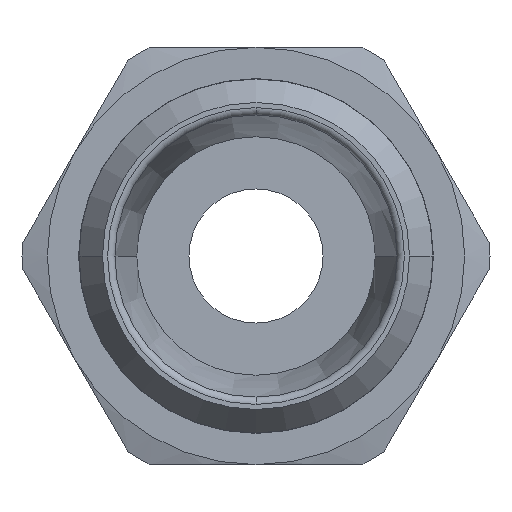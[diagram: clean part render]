
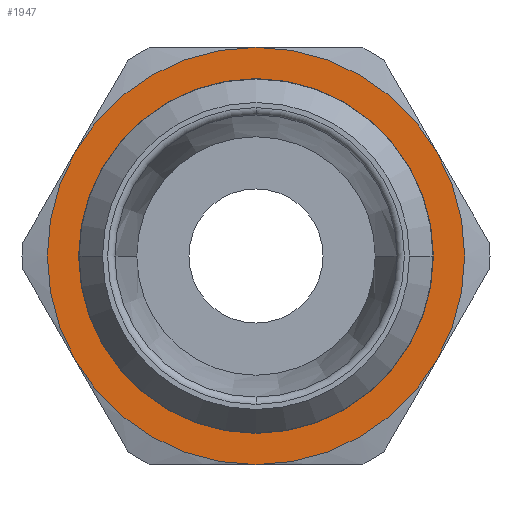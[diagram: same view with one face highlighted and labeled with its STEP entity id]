
A CAD part, left-side view. The second image highlights one B-rep face of the part: STEP entity #1947.
In plain terms, the highlighted planar face has unit normal (-1, 0, 0) as drawn and (0, 0, 1) by its records, which use the part's own axes.
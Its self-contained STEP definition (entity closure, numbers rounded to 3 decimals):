
#857=CARTESIAN_POINT('',(-5.95,0.,2.0));
#858=VERTEX_POINT('',#857);
#884=CARTESIAN_POINT('',(5.95,0.,2.0));
#885=VERTEX_POINT('',#884);
#893=CARTESIAN_POINT('',(0.,0.,2.0));
#894=DIRECTION('',(0.0,0.0,1.0));
#895=DIRECTION('',(-1.0,0.0,0.0));
#896=AXIS2_PLACEMENT_3D('',#893,#894,#895);
#897=CIRCLE('',#896,5.95);
#898=EDGE_CURVE('',#885,#858,#897,.T.);
#1827=CARTESIAN_POINT('',(0.,-5.95,2.));
#1828=VERTEX_POINT('',#1827);
#1829=CARTESIAN_POINT('',(0.,0.,2.0));
#1830=DIRECTION('',(0.0,0.0,1.0));
#1831=DIRECTION('',(-1.0,0.0,0.0));
#1832=AXIS2_PLACEMENT_3D('',#1829,#1830,#1831);
#1833=CIRCLE('',#1832,5.95);
#1834=EDGE_CURVE('',#858,#1828,#1833,.T.);
#1836=CARTESIAN_POINT('',(0.,0.,2.0));
#1837=DIRECTION('',(0.0,0.0,1.0));
#1838=DIRECTION('',(-1.0,0.0,0.0));
#1839=AXIS2_PLACEMENT_3D('',#1836,#1837,#1838);
#1840=CIRCLE('',#1839,5.95);
#1841=EDGE_CURVE('',#1828,#885,#1840,.T.);
#1881=CARTESIAN_POINT('',(0.0,0.,2.0));
#1882=DIRECTION('',(0.0,0.0,1.0));
#1883=DIRECTION('',(1.0,0.0,0.0));
#1884=AXIS2_PLACEMENT_3D('',#1881,#1882,#1883);
#1885=PLANE('',#1884);
#1886=CARTESIAN_POINT('',(3.5,-6.062,2.));
#1887=VERTEX_POINT('',#1886);
#1888=CARTESIAN_POINT('',(7.,0.0,2.));
#1889=VERTEX_POINT('',#1888);
#1890=CARTESIAN_POINT('',(0.,0.0,2.0));
#1891=DIRECTION('',(0.0,0.0,1.0));
#1892=DIRECTION('',(1.0,0.0,0.0));
#1893=AXIS2_PLACEMENT_3D('',#1890,#1891,#1892);
#1894=CIRCLE('',#1893,7.);
#1895=EDGE_CURVE('',#1887,#1889,#1894,.T.);
#1896=ORIENTED_EDGE('',*,*,#1895,.T.);
#1897=CARTESIAN_POINT('',(3.5,6.062,2.));
#1898=VERTEX_POINT('',#1897);
#1899=CARTESIAN_POINT('',(0.,0.0,2.0));
#1900=DIRECTION('',(0.0,0.0,1.0));
#1901=DIRECTION('',(1.0,0.0,0.0));
#1902=AXIS2_PLACEMENT_3D('',#1899,#1900,#1901);
#1903=CIRCLE('',#1902,7.);
#1904=EDGE_CURVE('',#1889,#1898,#1903,.T.);
#1905=ORIENTED_EDGE('',*,*,#1904,.T.);
#1906=CARTESIAN_POINT('',(-3.5,6.062,2.));
#1907=VERTEX_POINT('',#1906);
#1908=CARTESIAN_POINT('',(0.,0.0,2.0));
#1909=DIRECTION('',(0.0,0.0,1.0));
#1910=DIRECTION('',(1.0,0.0,0.0));
#1911=AXIS2_PLACEMENT_3D('',#1908,#1909,#1910);
#1912=CIRCLE('',#1911,7.);
#1913=EDGE_CURVE('',#1898,#1907,#1912,.T.);
#1914=ORIENTED_EDGE('',*,*,#1913,.T.);
#1915=CARTESIAN_POINT('',(-7.,0.,2.));
#1916=VERTEX_POINT('',#1915);
#1917=CARTESIAN_POINT('',(0.,0.0,2.0));
#1918=DIRECTION('',(0.0,0.0,1.0));
#1919=DIRECTION('',(1.0,0.0,0.0));
#1920=AXIS2_PLACEMENT_3D('',#1917,#1918,#1919);
#1921=CIRCLE('',#1920,7.);
#1922=EDGE_CURVE('',#1907,#1916,#1921,.T.);
#1923=ORIENTED_EDGE('',*,*,#1922,.T.);
#1924=CARTESIAN_POINT('',(-3.5,-6.062,2.));
#1925=VERTEX_POINT('',#1924);
#1926=CARTESIAN_POINT('',(0.,0.0,2.0));
#1927=DIRECTION('',(0.0,0.0,1.0));
#1928=DIRECTION('',(1.0,0.0,0.0));
#1929=AXIS2_PLACEMENT_3D('',#1926,#1927,#1928);
#1930=CIRCLE('',#1929,7.);
#1931=EDGE_CURVE('',#1916,#1925,#1930,.T.);
#1932=ORIENTED_EDGE('',*,*,#1931,.T.);
#1933=CARTESIAN_POINT('',(0.,0.0,2.0));
#1934=DIRECTION('',(0.0,0.0,1.0));
#1935=DIRECTION('',(1.0,0.0,0.0));
#1936=AXIS2_PLACEMENT_3D('',#1933,#1934,#1935);
#1937=CIRCLE('',#1936,7.);
#1938=EDGE_CURVE('',#1925,#1887,#1937,.T.);
#1939=ORIENTED_EDGE('',*,*,#1938,.T.);
#1940=EDGE_LOOP('',(#1896,#1905,#1914,#1923,#1932,#1939));
#1941=FACE_OUTER_BOUND('',#1940,.T.);
#1942=ORIENTED_EDGE('',*,*,#1841,.F.);
#1943=ORIENTED_EDGE('',*,*,#1834,.F.);
#1944=ORIENTED_EDGE('',*,*,#898,.F.);
#1945=EDGE_LOOP('',(#1942,#1943,#1944));
#1946=FACE_BOUND('',#1945,.T.);
#1947=ADVANCED_FACE('',(#1941,#1946),#1885,.T.);
